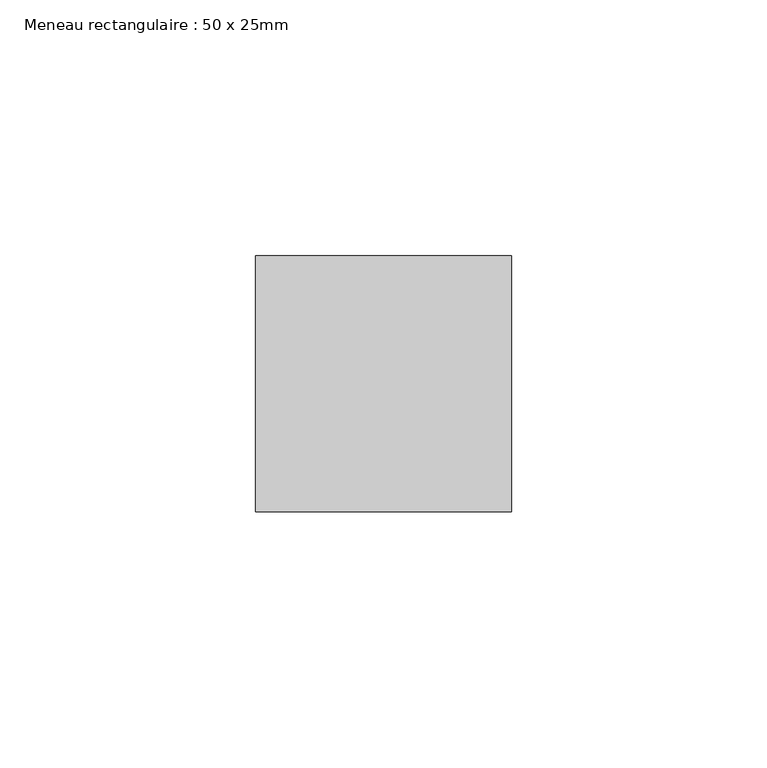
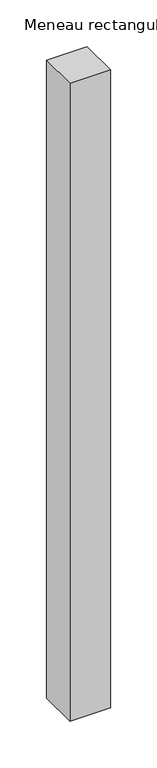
"""IFC4 building model written with IfcOpenShell, lengths in millimetres: member geometry, Meneau rectangulaire : 50 x 25mm."""

import ifcopenshell
import ifcopenshell.guid

model = None  # the IFC model being written
_history = None  # IfcOwnerHistory: only IFC2X3 demands one
_inside = {}  # id of a spatial element -> (the spatial element, [elements in it])
_under = {}  # id of a project, library or spatial element -> (it, [spatial elements below it])
_declared = {}  # id of a project -> (the project, [libraries it declares])
_typed = {}  # id of a type object -> (the type object, [elements of that type])
_made_of = {}  # id of a material, layer set ... -> (it, [elements and type objects made of it])


def new_model(schema):
    """Start an empty IFC model of exactly this schema.

    Asked for "IFC4X3", IfcOpenShell would pick the latest addendum, in which some entities
    have other attributes; the version numbers below select the first issue.
    IFC2X3 requires an IfcOwnerHistory on every rooted entity: one is made here for all.
    """
    global model, _history
    if schema == "IFC4X3":
        model = ifcopenshell.file(schema_version=(4, 3, 0, 0))
    else:
        model = ifcopenshell.file(schema=schema)
    _inside.clear()
    _under.clear()
    _declared.clear()
    _typed.clear()
    _made_of.clear()
    _history = None
    if model.schema == "IFC2X3":
        org = make("IfcOrganization", Name="unknown")
        user = make(
            "IfcPersonAndOrganization",
            ThePerson=make("IfcPerson", FamilyName="unknown"),
            TheOrganization=org,
        )
        app = make(
            "IfcApplication",
            ApplicationDeveloper=org,
            Version="unknown",
            ApplicationFullName="unknown",
            ApplicationIdentifier="unknown",
        )
        _history = make(
            "IfcOwnerHistory",
            OwningUser=user,
            OwningApplication=app,
            ChangeAction="ADDED",
            CreationDate=0,
        )
    return model


def make(cls, **values):
    """One entity of the class cls with the attributes given. An attribute that is None is left unset."""
    return model.create_entity(
        cls, **{name: value for name, value in values.items() if value is not None}
    )


def rooted(cls, **values):
    """An entity with a GlobalId (a new one), such as an element, a storey or a relation."""
    return make(cls, GlobalId=ifcopenshell.guid.new(), OwnerHistory=_history, **values)


def si_unit(unit_type, name, prefix=None):
    """IfcSIUnit, for example si_unit("LENGTHUNIT", "METRE", prefix="MILLI")."""
    return make("IfcSIUnit", UnitType=unit_type, Prefix=prefix, Name=name)


def assignment(units):
    """IfcUnitAssignment: the units of a project."""
    return None if units is None else make("IfcUnitAssignment", Units=units)


def point(xyz):
    """IfcCartesianPoint."""
    return None if xyz is None else make("IfcCartesianPoint", Coordinates=xyz)


def direction(xyz):
    """IfcDirection."""
    return None if xyz is None else make("IfcDirection", DirectionRatios=xyz)


def frame(location, z_axis=None, x_axis=None):
    """IfcAxis2Placement3D, a coordinate frame: its origin and axes. An axis left out is left unset."""
    return make(
        "IfcAxis2Placement3D",
        Location=point(location),
        Axis=direction(z_axis),
        RefDirection=direction(x_axis),
    )


def origin():
    """The frame at (0, 0, 0) with its axes left unset."""
    return frame((0.0, 0.0, 0.0))


def place(relative_to, where):
    """IfcLocalPlacement: puts the frame where relative to a parent placement (None: the world)."""
    return make(
        "IfcLocalPlacement", PlacementRelTo=relative_to, RelativePlacement=where
    )


def context(
    kind, dimensions, precision=None, world=None, true_north=None, identifier=None
):
    """IfcGeometricRepresentationContext, for example the 3D "Model" context."""
    return make(
        "IfcGeometricRepresentationContext",
        ContextIdentifier=identifier,
        ContextType=kind,
        CoordinateSpaceDimension=dimensions,
        Precision=precision,
        WorldCoordinateSystem=world,
        TrueNorth=true_north,
    )


def project(units=None, contexts=None):
    """IfcProject with its units and contexts."""
    return rooted(
        "IfcProject",
        Name="project",
        RepresentationContexts=contexts,
        UnitsInContext=assignment(units),
    )


def spatial(cls, under=None, at=None, **own):
    """A site, building, storey or space (cls), placed at a placement, below another one or the project."""
    s = rooted(cls, ObjectPlacement=at, **own)
    if under is not None:
        _under.setdefault(under.id(), (under, []))[1].append(s)
    return s


def polyline(points):
    """IfcPolyline through the points."""
    return make("IfcPolyline", Points=[point(p) for p in points])


def outline(outer, holes=None, kind="AREA"):
    """IfcArbitraryClosedProfileDef: a profile drawn as a closed curve; with holes, ...WithVoids."""
    if holes is None:
        return make("IfcArbitraryClosedProfileDef", ProfileType=kind, OuterCurve=outer)
    return make(
        "IfcArbitraryProfileDefWithVoids",
        ProfileType=kind,
        OuterCurve=outer,
        InnerCurves=holes,
    )


def extrude(swept, where, along, depth):
    """IfcExtrudedAreaSolid: the profile swept, set in the frame where, extruded along a direction by depth."""
    return make(
        "IfcExtrudedAreaSolid",
        SweptArea=swept,
        Position=where,
        ExtrudedDirection=direction(along),
        Depth=depth,
    )


def shape(context_of_items, identifier, shape_type, items):
    """IfcShapeRepresentation: the items that make up one representation, for example the "Body"."""
    return make(
        "IfcShapeRepresentation",
        ContextOfItems=context_of_items,
        RepresentationIdentifier=identifier,
        RepresentationType=shape_type,
        Items=items,
    )


def source(mapping_origin, context_of_items, identifier, shape_type, items):
    """IfcRepresentationMap: a shape defined once, which mapped items show again and again."""
    return make(
        "IfcRepresentationMap",
        MappingOrigin=mapping_origin,
        MappedRepresentation=shape(context_of_items, identifier, shape_type, items),
    )


def transform(
    local_origin,
    x_axis=None,
    y_axis=None,
    z_axis=None,
    scale=None,
    scale2=None,
    scale3=None,
    uniform=True,
):
    """IfcCartesianTransformationOperator3D, or its non-uniform kind. x_axis, y_axis, z_axis: its Axis1, 2, 3."""
    if uniform:
        return make(
            "IfcCartesianTransformationOperator3D",
            Axis1=direction(x_axis),
            Axis2=direction(y_axis),
            LocalOrigin=point(local_origin),
            Scale=scale,
            Axis3=direction(z_axis),
        )
    return make(
        "IfcCartesianTransformationOperator3DnonUniform",
        Axis1=direction(x_axis),
        Axis2=direction(y_axis),
        LocalOrigin=point(local_origin),
        Scale=scale,
        Axis3=direction(z_axis),
        Scale2=scale2,
        Scale3=scale3,
    )


def mapped(mapping_source, mapping_target):
    """IfcMappedItem: shows the shape of a source again, moved by a transform."""
    return make(
        "IfcMappedItem", MappingSource=mapping_source, MappingTarget=mapping_target
    )


def made_of(thing, what):
    """Note that an element or type object is made of a material, layer set ...; save() writes the relation."""
    if what is not None:
        _made_of.setdefault(what.id(), (what, []))[1].append(thing)
    return thing


def element(
    cls,
    number,
    at=None,
    inside=None,
    cuts=None,
    type_object=None,
    material=None,
    context=None,
    identifier="Body",
    shape_type=None,
    held_by="IfcProductDefinitionShape",
    body=None,
    shapes=None,
    **own,
):
    """One element of the class cls, such as IfcWall. Its Tag is "e" and its number.

    at: its placement. inside: the storey or other place that contains it. cuts: it is an
    opening in that element (IfcRelVoidsElement). A single representation is given by context,
    identifier, shape_type and body (its items); several are given by shapes. held_by: the class
    of the entity that holds the representations. save() writes the other relations.
    """
    e = rooted(cls, Tag="e%d" % number, ObjectPlacement=at, **own)
    if body is not None:
        shapes = [shape(context, identifier, shape_type, body)]
    if shapes is not None:
        e.Representation = make(held_by, Representations=shapes)
    if inside is not None:
        _inside.setdefault(inside.id(), (inside, []))[1].append(e)
    if cuts is not None:
        rooted(
            "IfcRelVoidsElement", RelatingBuildingElement=cuts, RelatedOpeningElement=e
        )
    if type_object is not None:
        _typed.setdefault(type_object.id(), (type_object, []))[1].append(e)
    return made_of(e, material)


def aggregate(whole, parts):
    """IfcRelAggregates: a whole, such as a stair, and the parts it consists of."""
    return rooted("IfcRelAggregates", RelatingObject=whole, RelatedObjects=parts)


def save(model, path):
    """Write the relations noted so far, then the file.

    IfcRelAggregates (storeys below a building ...), IfcRelContainedInSpatialStructure (elements
    in a storey), IfcRelDefinesByType, IfcRelAssociatesMaterial and IfcRelDeclares: one each for
    every whole, place, type object, material and project.
    """
    for whole, parts in _under.values():
        aggregate(whole, parts)
    for where, things in _inside.values():
        rooted(
            "IfcRelContainedInSpatialStructure",
            RelatedElements=things,
            RelatingStructure=where,
        )
    for kind, things in _typed.values():
        rooted("IfcRelDefinesByType", RelatedObjects=things, RelatingType=kind)
    for what, things in _made_of.values():
        rooted("IfcRelAssociatesMaterial", RelatedObjects=things, RelatingMaterial=what)
    for by, libraries in _declared.values():
        rooted("IfcRelDeclares", RelatingContext=by, RelatedDefinitions=libraries)
    model.write(path)


def meneau_rectangulaire_50_x_25mm_56d941f0(model_context):
    return source(origin(), model_context, "Body", "SweptSolid", [
        extrude(outline(polyline([(0.0, 0.0), (0.0, -50.0), (-50.0, -50.0), (-50.0, 0.0), (0.0, 0.0)])), frame((0.0, 0.0, -833.0861048), z_axis=(0.0, 0.0, 1.0), x_axis=(1.0, 0.0, 0.0)), (0.0, 0.0, 1.0), 833.0861048),
    ])


if __name__ == "__main__":
    model = new_model("IFC4")
    model_context = context("Model", 3, world=origin())
    ifc_project = project(units=[si_unit("LENGTHUNIT", "METRE", prefix="MILLI")], contexts=[model_context])
    site = spatial("IfcSite", under=ifc_project)
    building = spatial("IfcBuilding", under=site)
    placement = place(None, origin())
    meneau_rectangulaire_50_x_25mm_shape = meneau_rectangulaire_50_x_25mm_56d941f0(model_context)
    element("IfcMember", 1, ObjectType="Meneau rectangulaire : 50 x 25mm", at=placement, inside=building, context=model_context, shape_type="MappedRepresentation", body=[
        mapped(meneau_rectangulaire_50_x_25mm_shape, transform((0.0, 0.0, 0.0), x_axis=(1.0, 0.0, 0.0), y_axis=(0.0, 1.0, 0.0), z_axis=(0.0, 0.0, 1.0))),
    ])
    save(model, "model.ifc")
